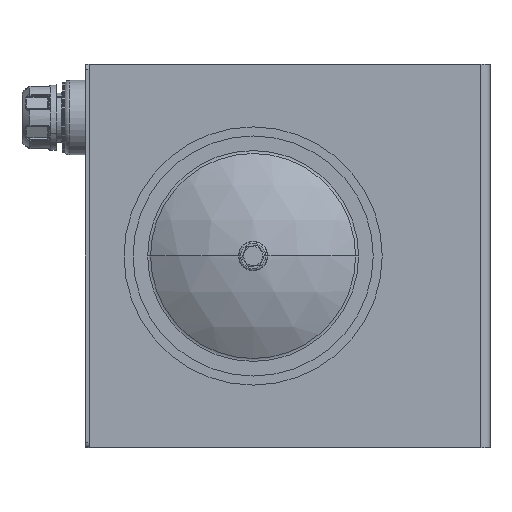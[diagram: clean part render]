
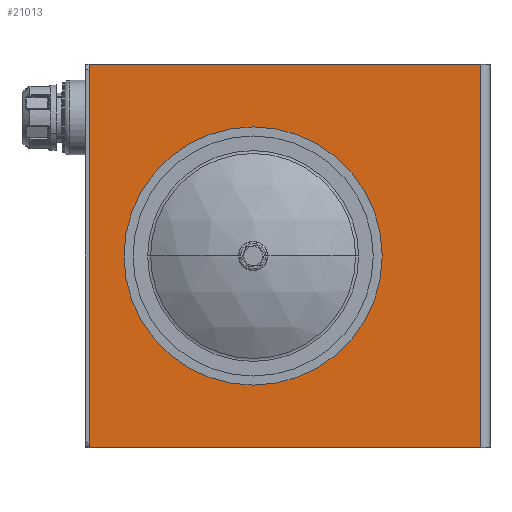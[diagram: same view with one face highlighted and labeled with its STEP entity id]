
A CAD part, left-side view. The second image highlights one B-rep face of the part: STEP entity #21013.
In plain terms, the highlighted planar face has unit normal (-1, 0, 0).
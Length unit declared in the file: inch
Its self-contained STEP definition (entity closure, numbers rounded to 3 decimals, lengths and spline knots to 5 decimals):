
#2110 = CIRCLE ( 'NONE', #9788, 5. ) ;
#2442 = VECTOR ( 'NONE', #14380, 39.37008 ) ;
#2461 = VERTEX_POINT ( 'NONE', #3057 ) ;
#2643 = CARTESIAN_POINT ( 'NONE',  ( -15.29857, -1.16298, 6.47677 ) ) ;
#3057 = CARTESIAN_POINT ( 'NONE',  ( -15.29857, -11.85618, -7.52323 ) ) ;
#3250 = ORIENTED_EDGE ( 'NONE', *, *, #10574, .T. ) ;
#3331 = EDGE_CURVE ( 'NONE', #8012, #11964, #7413, .T. ) ;
#3484 = PLANE ( 'NONE',  #12394 ) ;
#3537 = EDGE_LOOP ( 'NONE', ( #3250, #18310, #18885, #20677 ) ) ;
#3568 = VERTEX_POINT ( 'NONE', #12095 ) ;
#3864 = VECTOR ( 'NONE', #5908, 39.37008 ) ;
#4495 = VERTEX_POINT ( 'NONE', #2643 ) ;
#4720 = DIRECTION ( 'NONE',  ( 0., 0., 1. ) ) ;
#5345 = DIRECTION ( 'NONE',  ( 1., 0., 0. ) ) ;
#5751 = CARTESIAN_POINT ( 'NONE',  ( -15.29857, -11.85618, -7.52323 ) ) ;
#5908 = DIRECTION ( 'NONE',  ( 0., 0., 1. ) ) ;
#6148 = EDGE_CURVE ( 'NONE', #17619, #2461, #10604, .T. ) ;
#6618 = CARTESIAN_POINT ( 'NONE',  ( -15.29857, -1.16298, 1.47677 ) ) ;
#6631 = LINE ( 'NONE', #16080, #16736 ) ;
#6954 = EDGE_CURVE ( 'NONE', #11964, #17619, #6631, .T. ) ;
#7413 = LINE ( 'NONE', #14495, #2442 ) ;
#7627 = ORIENTED_EDGE ( 'NONE', *, *, #7845, .F. ) ;
#7832 = DIRECTION ( 'NONE',  ( -1., 0., 0. ) ) ;
#7845 = EDGE_CURVE ( 'NONE', #3568, #4495, #16692, .T. ) ;
#8012 = VERTEX_POINT ( 'NONE', #10329 ) ;
#9164 = FACE_BOUND ( 'NONE', #22111, .T. ) ;
#9788 = AXIS2_PLACEMENT_3D ( 'NONE', #6618, #7832, #4720 ) ;
#10329 = CARTESIAN_POINT ( 'NONE',  ( -15.29857, -11.85618, 10.47677 ) ) ;
#10574 = EDGE_CURVE ( 'NONE', #2461, #8012, #13373, .T. ) ;
#10604 = LINE ( 'NONE', #12507, #20016 ) ;
#10653 = EDGE_CURVE ( 'NONE', #4495, #3568, #2110, .T. ) ;
#11614 = CARTESIAN_POINT ( 'NONE',  ( -15.29857, 6.52702, 10.47677 ) ) ;
#11964 = VERTEX_POINT ( 'NONE', #11614 ) ;
#12095 = CARTESIAN_POINT ( 'NONE',  ( -15.29857, -1.16298, -3.52323 ) ) ;
#12306 = DIRECTION ( 'NONE',  ( 0., -1., 0. ) ) ;
#12394 = AXIS2_PLACEMENT_3D ( 'NONE', #16642, #5345, #18569 ) ;
#12507 = CARTESIAN_POINT ( 'NONE',  ( -15.29857, -12.28548, -7.52323 ) ) ;
#13373 = LINE ( 'NONE', #5751, #3864 ) ;
#14380 = DIRECTION ( 'NONE',  ( 0., 1., 0. ) ) ;
#14495 = CARTESIAN_POINT ( 'NONE',  ( -15.29857, -12.28548, 10.47677 ) ) ;
#15161 = DIRECTION ( 'NONE',  ( 0., 0., 1. ) ) ;
#15284 = DIRECTION ( 'NONE',  ( -1., 0., 0. ) ) ;
#15308 = CARTESIAN_POINT ( 'NONE',  ( -15.29857, -1.16298, 1.47677 ) ) ;
#15684 = AXIS2_PLACEMENT_3D ( 'NONE', #15308, #15284, #15161 ) ;
#16080 = CARTESIAN_POINT ( 'NONE',  ( -15.29857, 6.52702, -7.52323 ) ) ;
#16642 = CARTESIAN_POINT ( 'NONE',  ( -15.29857, 6.52702, -7.52323 ) ) ;
#16692 = CIRCLE ( 'NONE', #15684, 5. ) ;
#16736 = VECTOR ( 'NONE', #23782, 39.37008 ) ;
#17172 = CARTESIAN_POINT ( 'NONE',  ( -15.29857, 6.52702, -7.52323 ) ) ;
#17619 = VERTEX_POINT ( 'NONE', #17172 ) ;
#18310 = ORIENTED_EDGE ( 'NONE', *, *, #3331, .T. ) ;
#18569 = DIRECTION ( 'NONE',  ( 0., 0., -1. ) ) ;
#18885 = ORIENTED_EDGE ( 'NONE', *, *, #6954, .T. ) ;
#20016 = VECTOR ( 'NONE', #12306, 39.37008 ) ;
#20362 = ORIENTED_EDGE ( 'NONE', *, *, #10653, .F. ) ;
#20677 = ORIENTED_EDGE ( 'NONE', *, *, #6148, .T. ) ;
#21013 = ADVANCED_FACE ( 'NONE', ( #9164, #23590 ), #3484, .F. ) ;
#22111 = EDGE_LOOP ( 'NONE', ( #20362, #7627 ) ) ;
#23590 = FACE_OUTER_BOUND ( 'NONE', #3537, .T. ) ;
#23782 = DIRECTION ( 'NONE',  ( 0., 0., -1. ) ) ;
